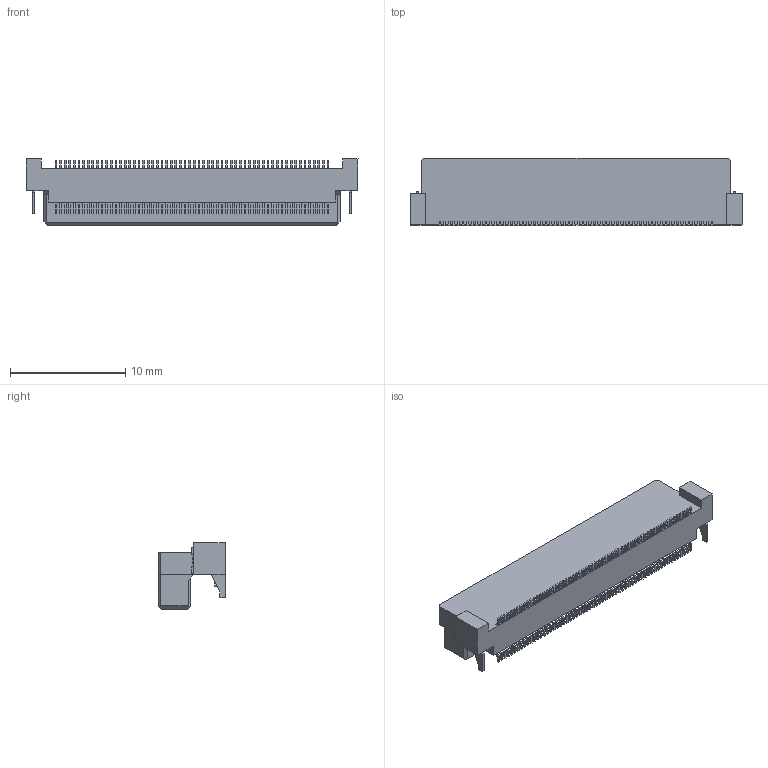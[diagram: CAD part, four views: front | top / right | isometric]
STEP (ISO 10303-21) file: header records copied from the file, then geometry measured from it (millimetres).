
FILE_DESCRIPTION(('Creo Elements/Direct Modeling STEP Export'),'2;1');
FILE_NAME('P3D162_DU10-120LB.stp','2017-11-27T14:33:44',(''),(''),'Creo Elements/Direct Modeling STEP processor for AP214 (Solid Model)','Creo Elements/Direct Modeling 19.0F 14-Feb-2017 (C) Parametric Technology GmbH','');
FILE_SCHEMA(('AUTOMOTIVE_DESIGN { 1 0 10303 214 1 1 1 1 }'));
Length unit declared in the file: millimetre
Products named in the file (2): DU10-120LB
Assembly tree (1 placements, depth 2):
  DU10-120LB
    DU10-120LB
Bounding box: 28.8 x 5.83 x 5.75 mm (x, y, z)
Volume: 467.2 mm3; surface area: 943.4 mm2
Topology: 1 solids, 1 shells, 1784 faces, 4601 edges, 3066 vertices
Faces by surface type: plane 1304, cylinder 480
Entity records: 54093 total; most frequent: CARTESIAN_POINT 9447, ORIENTED_EDGE 9202, DIRECTION 9126, EDGE_CURVE 4601, VECTOR 3636, LINE 3636, VERTEX_POINT 3066, AXIS2_PLACEMENT_3D 2745
